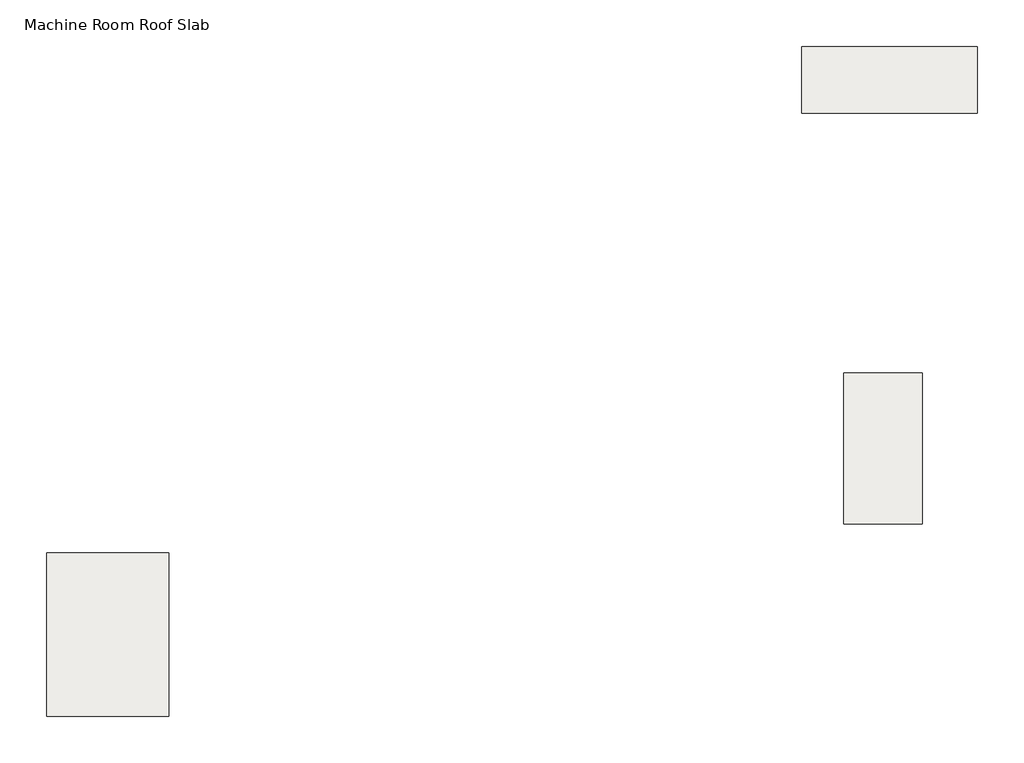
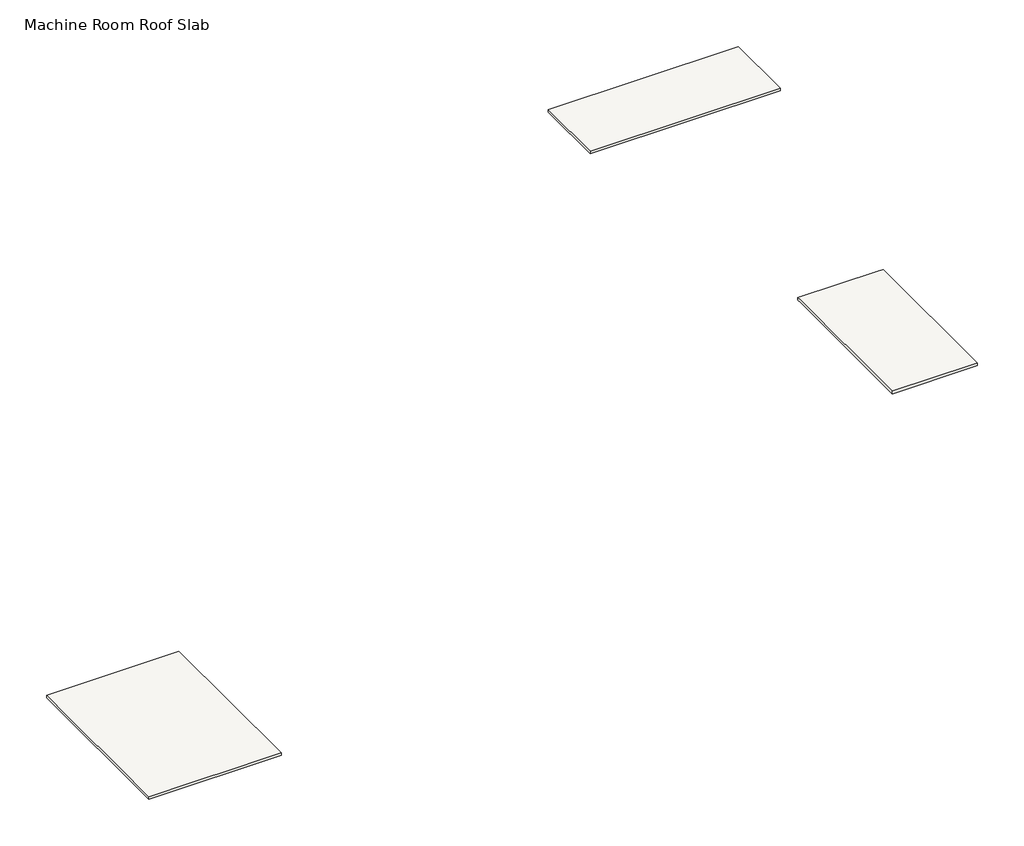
# One storey: 3 slabs.
"""IFC4 building model written with IfcOpenShell, lengths in millimetres."""

from ifc_helpers import new_model, si_unit, frame, origin, place, context, project, spatial, polyline, outline, extrude, faceted_brep, element, save

model = new_model("IFC4")

# Units and contexts
model_context = context("Model", 3, world=origin())
ifc_project = project(units=[si_unit("LENGTHUNIT", "METRE", prefix="MILLI")], contexts=[model_context])

# Site, building, storey
site = spatial("IfcSite", under=ifc_project)
building = spatial("IfcBuilding", under=site)
storey = spatial("IfcBuildingStorey", under=building, Name="Machine Room Roof Slab", Elevation=19350.0)

# Slabs
placement = place(None, origin())
element("IfcSlab", 1, ObjectType="RCC Slab", at=placement, inside=storey, context=model_context, shape_type="SweptSolid", body=[
    extrude(outline(polyline([(-8492.5865899, -8397.6148653), (-8492.5865899, -17957.6148653), (-15639.5865899, -17957.6148653), (-15639.5865899, -8397.6148653), (-8492.5865899, -8397.6148653)])), frame((0.0, 0.0, 19200.0), z_axis=(0.0, 0.0, 1.0), x_axis=(1.0, 0.0, 0.0)), (0.0, 0.0, 1.0), 150.0),
])
element("IfcSlab", 2, ObjectType="RCC Slab", at=placement, inside=storey, context=model_context, shape_type="Brep", body=[
    faceted_brep([(31002.4134101, -6702.6148653, 19200.0), (31002.4134101, -6457.6148653, 19200.0), (31002.4134101, 1882.3851347, 19200.0), (31002.4134101, 2127.3851347, 19200.0), (35347.4134101, 2127.3851347, 19200.0), (35592.4134101, 2127.3851347, 19200.0), (35592.4134101, -6702.6148653, 19200.0), (35347.4134101, -6702.6148653, 19200.0), (31002.4134101, -6702.6148653, 19350.0), (35347.4134101, -6702.6148653, 19350.0), (35592.4134101, -6702.6148653, 19350.0), (35592.4134101, 2127.3851347, 19350.0), (35347.4134101, 2127.3851347, 19350.0), (31002.4134101, 2127.3851347, 19350.0), (31002.4134101, 1882.3851347, 19350.0), (31002.4134101, -6457.6148653, 19350.0)], [[[0, 1, 2, 3, 4, 5, 6, 7]], [[8, 9, 10, 11, 12, 13, 14, 15]], [[3, 2, 1, 0, 8, 15, 14, 13]], [[5, 4, 3, 13, 12, 11]], [[6, 5, 11, 10]], [[0, 7, 6, 10, 9, 8]]]),
])
element("IfcSlab", 3, ObjectType="RCC Slab", at=placement, inside=storey, context=model_context, shape_type="Brep", body=[
    faceted_brep([(38822.4134101, 21247.3851347, 19200.0), (38822.4134101, 17579.3851347, 19200.0), (38822.4134101, 17337.3851347, 19200.0), (28799.4134101, 17337.3851347, 19200.0), (28557.4134101, 17337.3851347, 19200.0), (28557.4134101, 21002.3851347, 19200.0), (28557.4134101, 21247.3851347, 19200.0), (38577.4134101, 21247.3851347, 19200.0), (38822.4134101, 21247.3851347, 19350.0), (38577.4134101, 21247.3851347, 19350.0), (28557.4134101, 21247.3851347, 19350.0), (28557.4134101, 21002.3851347, 19350.0), (28557.4134101, 17337.3851347, 19350.0), (28799.4134101, 17337.3851347, 19350.0), (38822.4134101, 17337.3851347, 19350.0), (38822.4134101, 17579.3851347, 19350.0)], [[[0, 1, 2, 3, 4, 5, 6, 7]], [[8, 9, 10, 11, 12, 13, 14, 15]], [[2, 1, 0, 8, 15, 14]], [[4, 3, 2, 14, 13, 12]], [[6, 5, 4, 12, 11, 10]], [[0, 7, 6, 10, 9, 8]]]),
])

save(model, "model.ifc")
